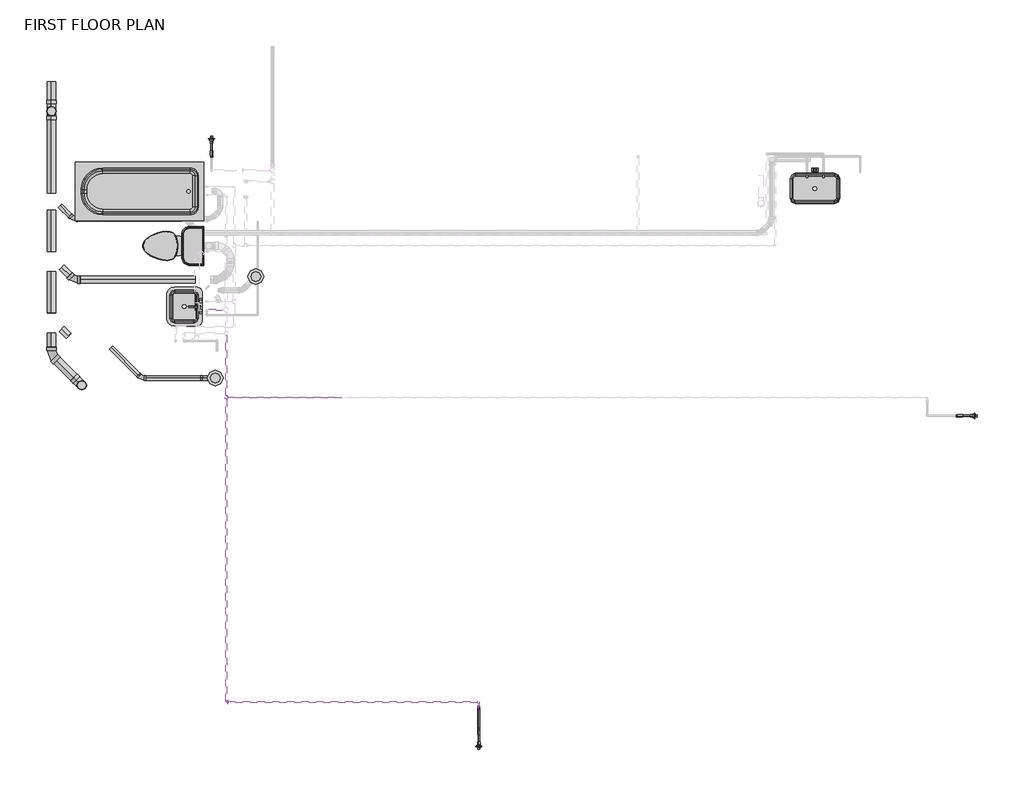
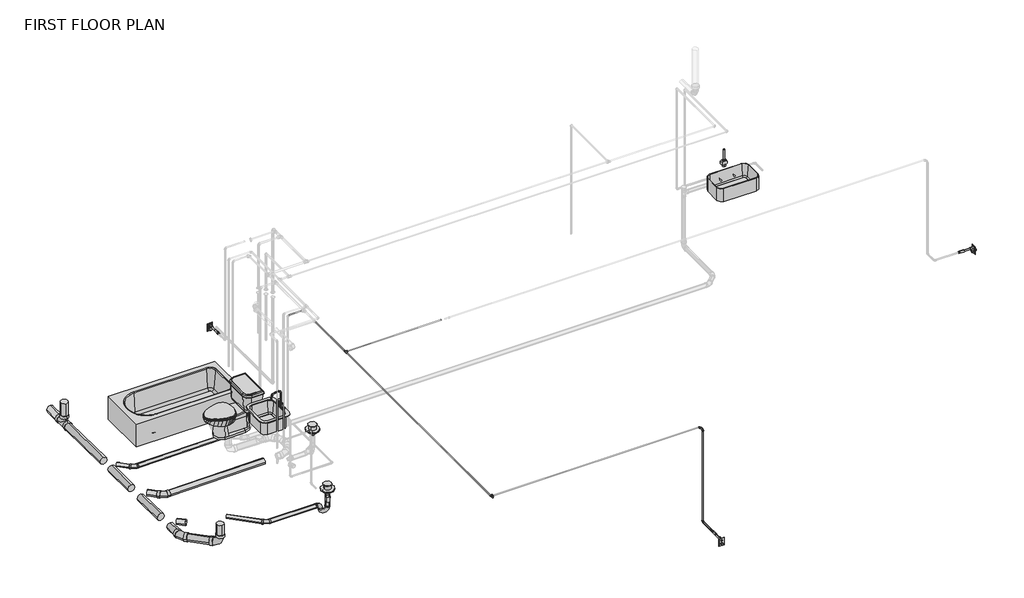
# One storey, part 1 of 5: 25 pipe segments, 15 pipe fittings, 9 flow terminals.
"""IFC4 building model written with IfcOpenShell, lengths in millimetres."""

from ifc_helpers import new_model, si_unit, point, frame, frame_2d, origin, place, context, project, spatial, circle_curve, trimmed, segment, composite_curve, outline, extrude, transform, mapped, element, save
from ifc_brep_helpers import plane_surface, cylinder_surface, advanced_brep
from components import flow_terminal_accce45a, flow_terminal_99821c54, lsy_sink_1a_065a4558, flow_terminal_62a433f7, toilet_domestic_3d_toilet_domestic_3d_a08e12bc, toilet_domestic_3d_toilet_domestic_3d_5530cc89, tub_rectangular_3d_tub_rectangular_3d_d1c8eb0f, bend_pvc_sch_40_dwv_standard_9bd3ec68, bend_pvc_sch_40_dwv_standard_021da87b, bend_pvc_sch_40_dwv_standard_1fbead0f, bend_pvc_sch_40_dwv_standard_1e75cfd5, bend_pvc_sch_40_dwv_standard_614e1da6, pipe_elbow_copper_k_aad62f2d, pipe_tee_copper_k_1a6ca384, pipe_tee_copper_k_6c1f9b63, pipe_transition_copper_k_859ff352, pipe_transition_copper_k_a6841901, standard_73d07651, tee_sanitary_pvc_sch_40_dwv_standard_2f6296fd

model = new_model("IFC4")

# Units and contexts
model_context = context("Model", 3, world=origin())
ifc_project = project(units=[si_unit("LENGTHUNIT", "METRE", prefix="MILLI")], contexts=[model_context])

# Site, building, storey
site = spatial("IfcSite", under=ifc_project)
building = spatial("IfcBuilding", under=site)
storey = spatial("IfcBuildingStorey", under=building, Name="FIRST FLOOR PLAN", Elevation=0.0)

# Flow terminals
placement = place(None, origin())
flow_terminal_shape = flow_terminal_accce45a(model_context)
element("IfcFlowTerminal", 1, ObjectType="Floor Drain - Round : 5\" Strainer - 2\" Drain", at=placement, inside=storey, context=model_context, shape_type="MappedRepresentation", body=[
    mapped(flow_terminal_shape, transform((-6605.1514604, 4019.3670747, 0.0), x_axis=(0.70711416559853, 0.7070993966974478, 0.0), y_axis=(-0.7070993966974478, 0.70711416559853, 0.0), z_axis=(0.0, 0.0, 1.0))),
])
element("IfcFlowTerminal", 2, ObjectType="Floor Drain - Round : 5\" Strainer - 2\" Drain", at=placement, inside=storey, context=model_context, shape_type="MappedRepresentation", body=[
    mapped(flow_terminal_shape, transform((-7133.1507302, 2694.921428, 0.0), x_axis=(1.0, -1.4058557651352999e-08, 0.0), y_axis=(1.4058557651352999e-08, 1.0, 0.0), z_axis=(0.0, 0.0, 1.0))),
])
flow_terminal_2_shape = flow_terminal_99821c54(model_context)
element("IfcFlowTerminal", 3, ObjectType="GES WALL HYDRANT : 6\" Wall Thickness", at=placement, inside=storey, context=model_context, shape_type="MappedRepresentation", body=[
    mapped(flow_terminal_2_shape, transform((-3698.9238767, -2108.9823595, 736.6), x_axis=(1.0, 0.0, 0.0), y_axis=(0.0, 0.0, 1.0), z_axis=(0.0, -1.0, 0.0))),
])
element("IfcFlowTerminal", 4, ObjectType="GES WALL HYDRANT : 6\" Wall Thickness", at=placement, inside=storey, context=model_context, shape_type="MappedRepresentation", body=[
    mapped(flow_terminal_2_shape, transform((2763.7886233, 2202.6342063, 736.6), x_axis=(0.0, 1.0, 0.0), y_axis=(0.0, 0.0, 1.0), z_axis=(1.0, 0.0, 0.0))),
])
element("IfcFlowTerminal", 5, ObjectType="GES WALL HYDRANT : 6\" Wall Thickness", at=placement, inside=storey, context=model_context, shape_type="MappedRepresentation", body=[
    mapped(flow_terminal_2_shape, transform((-7183.0178129, 5815.8176405, 736.6), x_axis=(-1.0, 0.0, 0.0), y_axis=(0.0, 0.0, 1.0), z_axis=(0.0, 1.0, 0.0))),
])
lsy_sink_1a_shape = lsy_sink_1a_065a4558(model_context)
element("IfcFlowTerminal", 6, ObjectType="LSY_Sink_1A : 25\"W x 15\"D", at=placement, inside=storey, context=model_context, shape_type="MappedRepresentation", body=[
    mapped(lsy_sink_1a_shape, transform((665.0993832, 5264.1972394, -25.4), x_axis=(1.0, 0.0, 0.0), y_axis=(0.0, 1.0, 0.0), z_axis=(0.0, 0.0, 1.0))),
])
flow_terminal_3_shape = flow_terminal_62a433f7(model_context)
element("IfcFlowTerminal", 7, ObjectType="Sink Vanity-Square : 20\" x 18\"", at=placement, inside=storey, context=model_context, shape_type="MappedRepresentation", body=[
    mapped(flow_terminal_3_shape, transform((-7486.988214, 3642.7068811, 0.0), x_axis=(0.0, -1.0, 0.0), y_axis=(1.0, 0.0, 0.0), z_axis=(0.0, 0.0, 1.0))),
])
toilet_domestic_3d_toilet_domestic_3d_shape = toilet_domestic_3d_toilet_domestic_3d_a08e12bc(model_context)
toilet_domestic_3d_toilet_domestic_3d_2_shape = toilet_domestic_3d_toilet_domestic_3d_5530cc89(model_context)
element("IfcFlowTerminal", 8, ObjectType="Toilet-Domestic-3D : Toilet-Domestic-3D", at=placement, inside=storey, context=model_context, shape_type="MappedRepresentation", body=[
    mapped(toilet_domestic_3d_toilet_domestic_3d_shape, transform((-7776.1388402, 4418.8176405, 0.0), x_axis=(0.0, 1.0, 0.0), y_axis=(-1.0, 0.0, 0.0), z_axis=(0.0, 0.0, 1.0))),
    mapped(toilet_domestic_3d_toilet_domestic_3d_2_shape, transform((-7776.1388402, 4418.8176405, 0.0), x_axis=(0.0, 1.0, 0.0), y_axis=(-1.0, 0.0, 0.0), z_axis=(0.0, 0.0, 1.0))),
])
tub_rectangular_3d_tub_rectangular_3d_shape = tub_rectangular_3d_tub_rectangular_3d_d1c8eb0f(model_context)
element("IfcFlowTerminal", 9, ObjectType="Tub-Rectangular-3D : Tub-Rectangular-3D", at=placement, inside=storey, context=model_context, shape_type="MappedRepresentation", body=[
    mapped(tub_rectangular_3d_tub_rectangular_3d_shape, transform((-8544.4457816, 5511.0176405, 0.0), x_axis=(-1.0, 0.0, 0.0), y_axis=(0.0, -1.0, 0.0), z_axis=(0.0, 0.0, 1.0))),
])

# Pipe fittings
bend_pvc_sch_40_dwv_standard_shape = bend_pvc_sch_40_dwv_standard_9bd3ec68(model_context)
element("IfcPipeFitting", 10, ObjectType="Bend - PVC - Sch 40 - DWV : Standard", at=placement, inside=storey, context=model_context, shape_type="MappedRepresentation", body=[
    mapped(bend_pvc_sch_40_dwv_standard_shape, transform((-8984.7024744, 4769.5060626, -334.2628729), x_axis=(0.707087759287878, -0.7070875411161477, 0.007355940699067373), y_axis=(0.7070490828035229, 0.7071260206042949, 0.007374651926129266), z_axis=(-0.010416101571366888, -1.3514981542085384e-05, 0.9999457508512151))),
])
bend_pvc_sch_40_dwv_standard_2_shape = bend_pvc_sch_40_dwv_standard_021da87b(model_context)
element("IfcPipeFitting", 11, ObjectType="Bend - PVC - Sch 40 - DWV : Standard", at=placement, inside=storey, context=model_context, shape_type="MappedRepresentation", body=[
    mapped(bend_pvc_sch_40_dwv_standard_2_shape, transform((-8974.0929724, 3977.8910872, -325.9743028), x_axis=(0.7070887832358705, -0.7070865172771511, 0.007355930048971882), y_axis=(0.7070479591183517, 0.7071270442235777, 0.007384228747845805), z_axis=(-0.01042286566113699, -2.0309991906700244e-05, 0.9999456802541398))),
])
bend_pvc_sch_40_dwv_standard_3_shape = bend_pvc_sch_40_dwv_standard_1fbead0f(model_context)
element("IfcPipeFitting", 12, ObjectType="Bend - PVC - Sch 40 - DWV : Standard", at=placement, inside=storey, context=model_context, shape_type="MappedRepresentation", body=[
    mapped(bend_pvc_sch_40_dwv_standard_3_shape, transform((-9269.9108991, 2996.8400755, -315.9940029), x_axis=(0.0, -0.9999458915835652, 0.010402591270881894), y_axis=(0.9999908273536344, 4.455565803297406e-05, 0.004282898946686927), z_axis=(-0.004283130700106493, 0.010402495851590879, 0.9999367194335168))),
])
bend_pvc_sch_40_dwv_standard_4_shape = bend_pvc_sch_40_dwv_standard_1e75cfd5(model_context)
element("IfcPipeFitting", 13, ObjectType="Bend - PVC - Sch 40 - DWV : Standard", at=placement, inside=storey, context=model_context, shape_type="MappedRepresentation", body=[
    mapped(bend_pvc_sch_40_dwv_standard_4_shape, transform((-8874.7796298, 2601.7088062, -310.1908854), x_axis=(0.7070686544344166, -0.7070686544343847, 0.010384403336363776), y_axis=(-0.0073428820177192, 0.007342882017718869, 0.9999460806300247), z_axis=(-0.7071067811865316, -0.7071067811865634, 0.0))),
])
bend_pvc_sch_40_dwv_standard_5_shape = bend_pvc_sch_40_dwv_standard_614e1da6(model_context)
element("IfcPipeFitting", 14, ObjectType="Bend - PVC - Sch 40 - DWV : Standard", at=placement, inside=storey, context=model_context, shape_type="MappedRepresentation", body=[
    mapped(bend_pvc_sch_40_dwv_standard_5_shape, transform((-8096.4060209, 2694.9552371, -309.827854), x_axis=(0.7071057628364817, -0.7070864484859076, 0.005494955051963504), y_axis=(0.7071077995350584, 0.7070844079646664, -0.005495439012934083), z_axis=(3.5341481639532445e-07, 0.007771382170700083, 0.9999698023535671))),
])
pipe_elbow_copper_k_shape = pipe_elbow_copper_k_aad62f2d(model_context)
element("IfcPipeFitting", 15, ObjectType="Pipe Elbow : Copper- K", at=placement, inside=storey, context=model_context, shape_type="MappedRepresentation", body=[
    mapped(pipe_elbow_copper_k_shape, transform((-3698.9238767, -1598.3633412, 765.96875), x_axis=(0.0, 1.0, 0.0), y_axis=(0.0, 0.0, 1.0), z_axis=(1.0, 0.0, 0.0))),
])
element("IfcPipeFitting", 16, ObjectType="Pipe Elbow : Copper- K", at=placement, inside=storey, context=model_context, shape_type="MappedRepresentation", body=[
    mapped(pipe_elbow_copper_k_shape, transform((-3698.9238767, -1598.3633412, 2298.2390728), x_axis=(0.0, 0.0, 1.0), y_axis=(0.0, 1.0, 0.0), z_axis=(-1.0, 0.0, 0.0))),
])
element("IfcPipeFitting", 17, ObjectType="Pipe Elbow : Copper- K", at=placement, inside=storey, context=model_context, shape_type="MappedRepresentation", body=[
    mapped(pipe_elbow_copper_k_shape, transform((-3698.9238767, -1531.2560431, 2298.2390728), x_axis=(0.0, 1.0, 0.0), y_axis=(-1.0, 0.0, 0.0), z_axis=(0.0, 0.0, 1.0))),
])
element("IfcPipeFitting", 18, ObjectType="Pipe Elbow : Copper- K", at=placement, inside=storey, context=model_context, shape_type="MappedRepresentation", body=[
    mapped(pipe_elbow_copper_k_shape, transform((-6991.3887487, -1531.2560431, 2298.2390728), x_axis=(0.0, -1.0, 0.0), y_axis=(1.0, 0.0, 0.0), z_axis=(0.0, 0.0, 1.0))),
])
pipe_tee_copper_k_shape = pipe_tee_copper_k_1a6ca384(model_context)
element("IfcPipeFitting", 19, ObjectType="Pipe Tee : Copper- K", at=placement, inside=storey, context=model_context, shape_type="MappedRepresentation", body=[
    mapped(pipe_tee_copper_k_shape, transform((-6991.3887487, 2442.6144205, 2298.2390728), x_axis=(0.0, 1.0, 0.0), y_axis=(-1.0, 0.0, 0.0), z_axis=(0.0, 0.0, 1.0))),
])
pipe_tee_copper_k_2_shape = pipe_tee_copper_k_6c1f9b63(model_context)
element("IfcPipeFitting", 20, ObjectType="Pipe Tee : Copper- K", at=placement, inside=storey, context=model_context, shape_type="MappedRepresentation", body=[
    mapped(pipe_tee_copper_k_2_shape, transform((-7133.1525364, 2694.921428, -254.0009027), x_axis=(1.3874723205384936e-05, -7.937864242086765e-11, 0.9999999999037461), y_axis=(-0.7071067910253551, -0.707106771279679, 9.810854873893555e-06), z_axis=(0.7071067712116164, -0.7071067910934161, -9.810966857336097e-06))),
])
pipe_transition_copper_k_shape = pipe_transition_copper_k_859ff352(model_context)
element("IfcPipeFitting", 21, ObjectType="Pipe Transition : Copper- K", at=placement, inside=storey, context=model_context, shape_type="MappedRepresentation", body=[
    mapped(pipe_transition_copper_k_shape, transform((-3698.9238767, -1621.3820912, 765.96875), x_axis=(0.0, 1.0, 0.0), y_axis=(-1.0, 0.0, 0.0), z_axis=(0.0, 0.0, 1.0))),
])
pipe_transition_copper_k_2_shape = pipe_transition_copper_k_a6841901(model_context)
element("IfcPipeFitting", 22, ObjectType="Pipe Transition : Copper- K", at=placement, inside=storey, context=model_context, shape_type="MappedRepresentation", body=[
    mapped(pipe_transition_copper_k_2_shape, transform((-6967.1793737, -1531.2560431, 2298.2390728), x_axis=(-1.0, 0.0, 0.0), y_axis=(0.0, -1.0, 0.0), z_axis=(0.0, 0.0, 1.0))),
])
standard_shape = standard_73d07651(model_context)
element("IfcPipeFitting", 23, ObjectType="GES P TRAP PVC Sch 40 - DWV : Standard", at=placement, inside=storey, context=model_context, shape_type="MappedRepresentation", body=[
    mapped(standard_shape, transform((-7133.152779, 2694.9202352, -309.8279224), x_axis=(-7.102474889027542e-08, 7.05815354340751e-08, -0.999999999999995), y_axis=(-0.9999999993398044, 3.633712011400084e-05, 7.102731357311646e-08), z_axis=(3.633712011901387e-05, 0.9999999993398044, 7.057895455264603e-08))),
])
tee_sanitary_pvc_sch_40_dwv_standard_shape = tee_sanitary_pvc_sch_40_dwv_standard_2f6296fd(model_context)
element("IfcPipeFitting", 24, ObjectType="Tee Sanitary - PVC - Sch 40 - DWV : Standard", at=placement, inside=storey, context=model_context, shape_type="MappedRepresentation", body=[
    mapped(tee_sanitary_pvc_sch_40_dwv_standard_shape, transform((-9269.9108991, 6176.3055928, -349.0704729), x_axis=(0.0, -0.9999458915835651, 0.01040259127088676), y_axis=(0.0, -0.01040259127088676, -0.9999458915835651), z_axis=(1.0, 0.0, 0.0))),
])

# Pipe segments
element("IfcPipeSegment", 25, ObjectType="Copper", at=placement, inside=storey, context=model_context, shape_type="SweptSolid", body=[
    extrude(outline(composite_curve([segment(trimmed(circle_curve(frame_2d((3583.7331459, 2298.2390728)), 7.9375), [point((3575.7956459, 2298.2390728))], [point((3583.7331459, 2306.1765728))], False, "CARTESIAN"), True, "CONTINUOUS"), segment(trimmed(circle_curve(frame_2d((3583.7331459, 2298.2390728)), 7.9375), [point((3583.7331459, 2306.1765728))], [point((3591.6706459, 2298.2390728))], False, "CARTESIAN"), True, "CONTINUOUS"), segment(trimmed(circle_curve(frame_2d((3583.7331459, 2298.2390728)), 7.9375), [point((3591.6706459, 2298.2390728))], [point((3583.7331459, 2290.3015728))], False, "CARTESIAN"), True, "CONTINUOUS"), segment(trimmed(circle_curve(frame_2d((3583.7331459, 2298.2390728)), 7.9375), [point((3583.7331459, 2290.3015728))], [point((3575.7956459, 2298.2390728))], False, "CARTESIAN"), True, "CONTINUOUS")], self_intersect=False)), frame((-7227.9262487, 0.0, 0.0), z_axis=(1.0, 0.0, 0.0), x_axis=(0.0, 1.0, 0.0)), (0.0, 0.0, 1.0), 199.23125),
])
element("IfcPipeSegment", 26, ObjectType="Copper", at=placement, inside=storey, context=model_context, shape_type="SweptSolid", body=[
    extrude(outline(composite_curve([segment(trimmed(circle_curve(frame_2d((2298.2390728, -3698.9238767)), 7.9375), [point((2298.2390728, -3690.9863767))], [point((2306.1765728, -3698.9238767))], False, "CARTESIAN"), True, "CONTINUOUS"), segment(trimmed(circle_curve(frame_2d((2298.2390728, -3698.9238767)), 7.9375), [point((2306.1765728, -3698.9238767))], [point((2298.2390728, -3706.8613767))], False, "CARTESIAN"), True, "CONTINUOUS"), segment(trimmed(circle_curve(frame_2d((2298.2390728, -3698.9238767)), 7.9375), [point((2298.2390728, -3706.8613767))], [point((2290.3015728, -3698.9238767))], False, "CARTESIAN"), True, "CONTINUOUS"), segment(trimmed(circle_curve(frame_2d((2298.2390728, -3698.9238767)), 7.9375), [point((2290.3015728, -3698.9238767))], [point((2298.2390728, -3690.9863767))], False, "CARTESIAN"), True, "CONTINUOUS")], self_intersect=False)), frame((0.0, -1580.9008412, 0.0), z_axis=(0.0, 1.0, 0.0), x_axis=(0.0, 0.0, 1.0)), (0.0, 0.0, 1.0), 32.1822981),
])
element("IfcPipeSegment", 27, ObjectType="Copper", at=placement, inside=storey, context=model_context, shape_type="SweptSolid", body=[
    extrude(outline(composite_curve([segment(trimmed(circle_curve(frame_2d((765.96875, -3698.9238767)), 11.1125), [point((765.96875, -3687.8113767))], [point((777.08125, -3698.9238767))], False, "CARTESIAN"), True, "CONTINUOUS"), segment(trimmed(circle_curve(frame_2d((765.96875, -3698.9238767)), 11.1125), [point((777.08125, -3698.9238767))], [point((765.96875, -3710.0363767))], False, "CARTESIAN"), True, "CONTINUOUS"), segment(trimmed(circle_curve(frame_2d((765.96875, -3698.9238767)), 11.1125), [point((765.96875, -3710.0363767))], [point((754.85625, -3698.9238767))], False, "CARTESIAN"), True, "CONTINUOUS"), segment(trimmed(circle_curve(frame_2d((765.96875, -3698.9238767)), 11.1125), [point((754.85625, -3698.9238767))], [point((765.96875, -3687.8113767))], False, "CARTESIAN"), True, "CONTINUOUS")], self_intersect=False)), frame((0.0, -1870.8573595, 0.0), z_axis=(0.0, 1.0, 0.0), x_axis=(0.0, 0.0, 1.0)), (0.0, 0.0, 1.0), 249.4752683),
])
element("IfcPipeSegment", 28, ObjectType="Copper", at=placement, inside=storey, context=model_context, shape_type="SweptSolid", body=[
    extrude(outline(composite_curve([segment(trimmed(circle_curve(frame_2d((-3698.9238767, -1598.3633412)), 7.9375), [point((-3706.8613767, -1598.3633412))], [point((-3698.9238767, -1590.4258412))], False, "CARTESIAN"), True, "CONTINUOUS"), segment(trimmed(circle_curve(frame_2d((-3698.9238767, -1598.3633412)), 7.9375), [point((-3698.9238767, -1590.4258412))], [point((-3690.9863767, -1598.3633412))], False, "CARTESIAN"), True, "CONTINUOUS"), segment(trimmed(circle_curve(frame_2d((-3698.9238767, -1598.3633412)), 7.9375), [point((-3690.9863767, -1598.3633412))], [point((-3698.9238767, -1606.3008412))], False, "CARTESIAN"), True, "CONTINUOUS"), segment(trimmed(circle_curve(frame_2d((-3698.9238767, -1598.3633412)), 7.9375), [point((-3698.9238767, -1606.3008412))], [point((-3706.8613767, -1598.3633412))], False, "CARTESIAN"), True, "CONTINUOUS")], self_intersect=False)), frame((0.0, 0.0, 783.43125), z_axis=(0.0, 0.0, 1.0), x_axis=(1.0, 0.0, 0.0)), (0.0, 0.0, 1.0), 1497.3453228),
])
element("IfcPipeSegment", 29, ObjectType="Copper", at=placement, inside=storey, context=model_context, shape_type="SweptSolid", body=[
    extrude(outline(composite_curve([segment(trimmed(circle_curve(frame_2d((-1531.2560431, 2298.2390728)), 7.9375), [point((-1539.1935431, 2298.2390728))], [point((-1531.2560431, 2306.1765728))], False, "CARTESIAN"), True, "CONTINUOUS"), segment(trimmed(circle_curve(frame_2d((-1531.2560431, 2298.2390728)), 7.9375), [point((-1531.2560431, 2306.1765728))], [point((-1523.3185431, 2298.2390728))], False, "CARTESIAN"), True, "CONTINUOUS"), segment(trimmed(circle_curve(frame_2d((-1531.2560431, 2298.2390728)), 7.9375), [point((-1523.3185431, 2298.2390728))], [point((-1531.2560431, 2290.3015728))], False, "CARTESIAN"), True, "CONTINUOUS"), segment(trimmed(circle_curve(frame_2d((-1531.2560431, 2298.2390728)), 7.9375), [point((-1531.2560431, 2290.3015728))], [point((-1539.1935431, 2298.2390728))], False, "CARTESIAN"), True, "CONTINUOUS")], self_intersect=False)), frame((-6967.1793737, 0.0, 0.0), z_axis=(1.0, 0.0, 0.0), x_axis=(0.0, 1.0, 0.0)), (0.0, 0.0, 1.0), 3250.792997),
])
element("IfcPipeSegment", 30, ObjectType="Copper", at=placement, inside=storey, context=model_context, shape_type="SweptSolid", body=[
    extrude(outline(composite_curve([segment(trimmed(circle_curve(frame_2d((2442.6144205, 2298.2390728)), 7.9375), [point((2434.6769205, 2298.2390728))], [point((2442.6144205, 2306.1765728))], False, "CARTESIAN"), True, "CONTINUOUS"), segment(trimmed(circle_curve(frame_2d((2442.6144205, 2298.2390728)), 7.9375), [point((2442.6144205, 2306.1765728))], [point((2450.5519205, 2298.2390728))], False, "CARTESIAN"), True, "CONTINUOUS"), segment(trimmed(circle_curve(frame_2d((2442.6144205, 2298.2390728)), 7.9375), [point((2450.5519205, 2298.2390728))], [point((2442.6144205, 2290.3015728))], False, "CARTESIAN"), True, "CONTINUOUS"), segment(trimmed(circle_curve(frame_2d((2442.6144205, 2298.2390728)), 7.9375), [point((2442.6144205, 2290.3015728))], [point((2434.6769205, 2298.2390728))], False, "CARTESIAN"), True, "CONTINUOUS")], self_intersect=False)), frame((-6967.5762487, 0.0, 0.0), z_axis=(1.0, 0.0, 0.0), x_axis=(0.0, 1.0, 0.0)), (0.0, 0.0, 1.0), 1483.7283),
])
element("IfcPipeSegment", 31, ObjectType="Copper", at=placement, inside=storey, context=model_context, shape_type="SweptSolid", body=[
    extrude(outline(composite_curve([segment(trimmed(circle_curve(frame_2d((2298.2390728, -6991.3887487)), 7.9375), [point((2298.2390728, -6999.3262487))], [point((2290.3015728, -6991.3887487))], False, "CARTESIAN"), True, "CONTINUOUS"), segment(trimmed(circle_curve(frame_2d((2298.2390728, -6991.3887487)), 7.9375), [point((2290.3015728, -6991.3887487))], [point((2298.2390728, -6983.4512487))], False, "CARTESIAN"), True, "CONTINUOUS"), segment(trimmed(circle_curve(frame_2d((2298.2390728, -6991.3887487)), 7.9375), [point((2298.2390728, -6983.4512487))], [point((2306.1765728, -6991.3887487))], False, "CARTESIAN"), True, "CONTINUOUS"), segment(trimmed(circle_curve(frame_2d((2298.2390728, -6991.3887487)), 7.9375), [point((2306.1765728, -6991.3887487))], [point((2298.2390728, -6999.3262487))], False, "CARTESIAN"), True, "CONTINUOUS")], self_intersect=False)), frame((0.0, -1513.7935431, 0.0), z_axis=(0.0, 1.0, 0.0), x_axis=(0.0, 0.0, 1.0)), (0.0, 0.0, 1.0), 3932.5954635),
])
element("IfcPipeSegment", 32, ObjectType="Copper", at=placement, inside=storey, context=model_context, shape_type="SweptSolid", body=[
    extrude(outline(composite_curve([segment(trimmed(circle_curve(frame_2d((2298.2390728, -6991.3887487)), 7.9375), [point((2298.2390728, -6999.3262487))], [point((2290.3015728, -6991.3887487))], False, "CARTESIAN"), True, "CONTINUOUS"), segment(trimmed(circle_curve(frame_2d((2298.2390728, -6991.3887487)), 7.9375), [point((2290.3015728, -6991.3887487))], [point((2298.2390728, -6983.4512487))], False, "CARTESIAN"), True, "CONTINUOUS"), segment(trimmed(circle_curve(frame_2d((2298.2390728, -6991.3887487)), 7.9375), [point((2298.2390728, -6983.4512487))], [point((2306.1765728, -6991.3887487))], False, "CARTESIAN"), True, "CONTINUOUS"), segment(trimmed(circle_curve(frame_2d((2298.2390728, -6991.3887487)), 7.9375), [point((2306.1765728, -6991.3887487))], [point((2298.2390728, -6999.3262487))], False, "CARTESIAN"), True, "CONTINUOUS")], self_intersect=False)), frame((0.0, 2466.4269205, 0.0), z_axis=(0.0, 1.0, 0.0), x_axis=(0.0, 0.0, 1.0)), (0.0, 0.0, 1.0), 788.37822),
])
element("IfcPipeSegment", 33, ObjectType="PVC - SAN/STORM", at=placement, inside=storey, context=model_context, shape_type="SweptSolid", body=[
    extrude(outline(composite_curve([segment(trimmed(circle_curve(frame_2d((0.0, 30.1625)), 30.1625), [point((-30.1624999, 30.1625))], [point((0.0, 60.325))], False, "CARTESIAN"), True, "CONTINUOUS"), segment(trimmed(circle_curve(frame_2d((0.0, 30.1625)), 30.1625), [point((0.0, 60.325))], [point((30.1625, 30.1625))], False, "CARTESIAN"), True, "CONTINUOUS"), segment(trimmed(circle_curve(frame_2d((0.0, 30.1625)), 30.1625), [point((30.1625, 30.1625))], [point((0.0, 0.0))], False, "CARTESIAN"), True, "CONTINUOUS"), segment(trimmed(circle_curve(frame_2d((0.0, 30.1625)), 30.1625), [point((0.0, 0.0))], [point((-30.1624999, 30.1625))], False, "CARTESIAN"), True, "CONTINUOUS")], self_intersect=False)), frame((-7133.1519417, 2664.758928, -211.1384027), z_axis=(3.3178685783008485e-05, 0.0, 0.9999999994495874), x_axis=(0.9999999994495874, 0.0, -3.3178685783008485e-05)), (0.0, 0.0, 1.0), 36.5125),
])
element("IfcPipeSegment", 34, ObjectType="PVC - SAN/STORM", at=placement, inside=storey, context=model_context, shape_type="SweptSolid", body=[
    extrude(outline(composite_curve([segment(trimmed(circle_curve(frame_2d((0.0, 30.1625)), 30.1625), [point((-30.1625, 30.1625))], [point((0.0, 60.325))], False, "CARTESIAN"), True, "CONTINUOUS"), segment(trimmed(circle_curve(frame_2d((0.0, 30.1625)), 30.1625), [point((0.0, 60.325))], [point((30.1625, 30.1625))], False, "CARTESIAN"), True, "CONTINUOUS"), segment(trimmed(circle_curve(frame_2d((0.0, 30.1625)), 30.1625), [point((30.1625, 30.1625))], [point((0.0, 0.0))], False, "CARTESIAN"), True, "CONTINUOUS"), segment(trimmed(circle_curve(frame_2d((0.0, 30.1625)), 30.1625), [point((0.0, 0.0))], [point((-30.1625, 30.1625))], False, "CARTESIAN"), True, "CONTINUOUS")], self_intersect=False)), frame((-7133.1527824, 2664.7577386, -357.4529224), z_axis=(1.3874723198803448e-05, 0.0, 0.9999999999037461), x_axis=(0.9999999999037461, 0.0, -1.3874723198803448e-05)), (0.0, 0.0, 1.0), 60.5895198),
])
element("IfcPipeSegment", 35, ObjectType="PVC - SAN/STORM", at=placement, inside=storey, context=model_context, shape_type="SweptSolid", body=[
    extrude(outline(composite_curve([segment(trimmed(circle_curve(frame_2d((0.0, 57.1500001)), 57.15), [point((-57.15, 57.1499999))], [point((-2e-07, 114.3000001))], False, "CARTESIAN"), True, "CONTINUOUS"), segment(trimmed(circle_curve(frame_2d((0.0, 57.1500001)), 57.15), [point((-2e-07, 114.3000001))], [point((57.1499999, 57.1500002))], False, "CARTESIAN"), True, "CONTINUOUS"), segment(trimmed(circle_curve(frame_2d((0.0, 57.1500001)), 57.15), [point((57.1499999, 57.1500002))], [point((1e-07, 0.0))], False, "CARTESIAN"), True, "CONTINUOUS"), segment(trimmed(circle_curve(frame_2d((0.0, 57.1500001)), 57.15), [point((1e-07, 0.0))], [point((-57.15, 57.1499999))], False, "CARTESIAN"), True, "CONTINUOUS")], self_intersect=False)), frame((-9269.9108991, 6119.1555929, -206.199965), z_axis=(-3.8335576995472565e-05, -7.860267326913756e-05, 0.9999999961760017), x_axis=(0.9999999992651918, -3.013280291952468e-09, 3.8335576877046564e-05)), (0.0, 0.0, 1.0), 206.1948523),
])
element("IfcPipeSegment", 36, ObjectType="PVC - SAN/STORM", at=placement, inside=storey, context=model_context, shape_type="SweptSolid", body=[
    extrude(outline(composite_curve([segment(trimmed(circle_curve(frame_2d((0.0, -57.15)), 57.15), [point((57.15, -57.15))], [point((0.0, -114.3))], False, "CARTESIAN"), True, "CONTINUOUS"), segment(trimmed(circle_curve(frame_2d((0.0, -57.15)), 57.15), [point((0.0, -114.3))], [point((-57.15, -57.15))], False, "CARTESIAN"), True, "CONTINUOUS"), segment(trimmed(circle_curve(frame_2d((0.0, -57.15)), 57.15), [point((-57.15, -57.15))], [point((0.0, 0.0))], False, "CARTESIAN"), True, "CONTINUOUS"), segment(trimmed(circle_curve(frame_2d((0.0, -57.15)), 57.15), [point((0.0, 0.0))], [point((57.15, -57.15))], False, "CARTESIAN"), True, "CONTINUOUS")], self_intersect=False)), frame((-9269.9108991, 6560.5051059, -295.9142672), z_axis=(0.0, -0.9999458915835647, 0.010402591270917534), x_axis=(1.0, 0.0, 0.0)), (0.0, 0.0, 1.0), 240.7507624),
])
element("IfcPipeSegment", 37, ObjectType="PVC - SAN/STORM", at=placement, inside=storey, context=model_context, shape_type="SweptSolid", body=[
    extrude(outline(composite_curve([segment(trimmed(circle_curve(frame_2d((0.0, 57.15)), 57.15), [point((-57.15, 57.15))], [point((0.0, 114.3))], False, "CARTESIAN"), True, "CONTINUOUS"), segment(trimmed(circle_curve(frame_2d((0.0, 57.15)), 57.15), [point((0.0, 114.3))], [point((57.15, 57.15))], False, "CARTESIAN"), True, "CONTINUOUS"), segment(trimmed(circle_curve(frame_2d((0.0, 57.15)), 57.15), [point((57.15, 57.15))], [point((0.0, 0.0))], False, "CARTESIAN"), True, "CONTINUOUS"), segment(trimmed(circle_curve(frame_2d((0.0, 57.15)), 57.15), [point((0.0, 0.0))], [point((-57.15, 57.15))], False, "CARTESIAN"), True, "CONTINUOUS")], self_intersect=False)), frame((-9269.9108991, 3281.9007791, -376.1126258), z_axis=(0.0, -0.9999458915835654, 0.010402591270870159), x_axis=(1.0, 0.0, 0.0)), (0.0, 0.0, 1.0), 185.6454689),
])
element("IfcPipeSegment", 38, ObjectType="PVC - SAN/STORM", at=placement, inside=storey, context=model_context, shape_type="SweptSolid", body=[
    extrude(outline(composite_curve([segment(trimmed(circle_curve(frame_2d((0.0, -30.1625)), 30.1625), [point((0.0, 0.0))], [point((30.1625, -30.1625))], False, "CARTESIAN"), True, "CONTINUOUS"), segment(trimmed(circle_curve(frame_2d((0.0, -30.1625)), 30.1625), [point((30.1625, -30.1625))], [point((0.0, -60.325))], False, "CARTESIAN"), True, "CONTINUOUS"), segment(trimmed(circle_curve(frame_2d((0.0, -30.1625)), 30.1625), [point((0.0, -60.325))], [point((-30.1625, -30.1625))], False, "CARTESIAN"), True, "CONTINUOUS"), segment(trimmed(circle_curve(frame_2d((0.0, -30.1625)), 30.1625), [point((-30.1625, -30.1625))], [point((0.0, 0.0))], False, "CARTESIAN"), True, "CONTINUOUS")], self_intersect=False)), frame((-8927.5555748, 4799.6685626, -333.6675927), z_axis=(0.9999457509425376, 0.0, 0.01041610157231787), x_axis=(0.01041610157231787, 0.0, -0.9999457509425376)), (0.0, 0.0, 1.0), 1358.3392102),
])
element("IfcPipeSegment", 39, ObjectType="PVC - SAN/STORM", at=placement, inside=storey, context=model_context, shape_type="SweptSolid", body=[
    extrude(outline(composite_curve([segment(trimmed(circle_curve(frame_2d((0.0, -30.1625)), 30.1625), [point((30.1616556, -29.9367927))], [point((0.2257074, -60.3241555))], False, "CARTESIAN"), True, "CONTINUOUS"), segment(trimmed(circle_curve(frame_2d((0.0, -30.1625)), 30.1625), [point((0.2257074, -60.3241555))], [point((-30.1616555, -30.3882074))], False, "CARTESIAN"), True, "CONTINUOUS"), segment(trimmed(circle_curve(frame_2d((0.0, -30.1625)), 30.1625), [point((-30.1616555, -30.3882074))], [point((-0.2257074, -0.0008445))], False, "CARTESIAN"), True, "CONTINUOUS"), segment(trimmed(circle_curve(frame_2d((0.0, -30.1625)), 30.1625), [point((-0.2257074, -0.0008445))], [point((30.1616556, -29.9367927))], False, "CARTESIAN"), True, "CONTINUOUS")], self_intersect=False)), frame((-9156.5303757, 4941.653846, -305.9132886), z_axis=(0.7070851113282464, -0.7070888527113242, 0.007483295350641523), x_axis=(0.7071284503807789, 0.7070455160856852, -0.007482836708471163)), (0.0, 0.0, 1.0), 185.8585815),
])
element("IfcPipeSegment", 40, ObjectType="PVC - SAN/STORM", at=placement, inside=storey, context=model_context, shape_type="SweptSolid", body=[
    extrude(outline(composite_curve([segment(trimmed(circle_curve(frame_2d((0.0, 57.15)), 57.15), [point((-57.15, 57.15))], [point((0.0, 114.3))], False, "CARTESIAN"), True, "CONTINUOUS"), segment(trimmed(circle_curve(frame_2d((0.0, 57.15)), 57.15), [point((0.0, 114.3))], [point((57.15, 57.15))], False, "CARTESIAN"), True, "CONTINUOUS"), segment(trimmed(circle_curve(frame_2d((0.0, 57.15)), 57.15), [point((57.15, 57.15))], [point((0.0, 0.0))], False, "CARTESIAN"), True, "CONTINUOUS"), segment(trimmed(circle_curve(frame_2d((0.0, 57.15)), 57.15), [point((0.0, 0.0))], [point((-57.15, 57.15))], False, "CARTESIAN"), True, "CONTINUOUS")], self_intersect=False)), frame((-9269.9108991, 6066.4925692, -405.0811635), z_axis=(0.0, -0.9999458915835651, 0.010402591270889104), x_axis=(1.0, 0.0, 0.0)), (0.0, 0.0, 1.0), 958.451088),
])
element("IfcPipeSegment", 41, ObjectType="PVC - SAN/STORM", at=placement, inside=storey, context=model_context, shape_type="AdvancedBrep", body=[
    advanced_brep(
    [(-7397.2787556, 4022.3410856, -309.5384872), (-7397.7420521, 3977.8910856, -265.0909017), (-7397.2787557, 3933.4410856, -309.5384872), (-7396.8154593, 3977.8910856, -353.9860727), (-8891.5474564, 4022.3410872, -325.1138952), (-8891.0841601, 3977.8910872, -369.5614807), (-8891.5474565, 3933.4410872, -325.1138952), (-8892.0107529, 3977.8910872, -280.6663097)],
    [
        (0, 1, circle_curve(frame((-7397.2787556, 3977.8910856, -309.5384872), z_axis=(0.9999456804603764, 0.0, 0.01042286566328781), x_axis=(0.0, 1.0, -1.1214382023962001e-11)), 44.45)),
        (1, 2, circle_curve(frame((-7397.2787557, 3977.8910856, -309.5384872), z_axis=(0.9999456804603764, 0.0, 0.01042286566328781), x_axis=(0.0, 1.0, -1.1214382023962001e-11)), 44.45)),
        (2, 3, circle_curve(frame((-7397.2787557, 3977.8910856, -309.5384872), z_axis=(0.9999456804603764, 0.0, 0.01042286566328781), x_axis=(0.0, 1.0, -1.1214382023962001e-11)), 44.45)),
        (3, 0, circle_curve(frame((-7397.2787557, 3977.8910856, -309.5384872), z_axis=(0.9999456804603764, 0.0, 0.01042286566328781), x_axis=(0.0, 1.0, -1.1214382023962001e-11)), 44.45)),
        (4, 5, circle_curve(frame((-8891.5474564, 3977.8910856, -325.1138952), z_axis=(-0.9999456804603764, 0.0, -0.01042286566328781), x_axis=(0.0, 1.0, -1.1214382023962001e-11)), 44.4500016)),
        (5, 6, circle_curve(frame((-8891.5474565, 3977.8910856, -325.1138952), z_axis=(-0.9999456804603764, 0.0, -0.01042286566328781), x_axis=(0.0, 1.0, -1.1214382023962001e-11)), 44.45)),
        (6, 7, circle_curve(frame((-8891.5474565, 3977.8910856, -325.1138952), z_axis=(-0.9999456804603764, 0.0, -0.01042286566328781), x_axis=(0.0, 1.0, -1.1214382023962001e-11)), 44.4499984)),
        (7, 4, circle_curve(frame((-8891.5474565, 3977.8910856, -325.1138952), z_axis=(-0.9999456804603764, 0.0, -0.01042286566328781), x_axis=(0.0, 1.0, -1.1214382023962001e-11)), 44.45)),
        (0, 4),
        (7, 1),
        (6, 2),
        (5, 3),
    ],
    [
        plane_surface(frame((-7397.2787557, 4022.3410856, -309.5384827), z_axis=(0.9999456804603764, -1.0759403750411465e-09, 0.010422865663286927), x_axis=(0.010422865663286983, 1.032232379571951e-07, -0.999945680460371))),
        plane_surface(frame((-8891.5474565, 4022.3410872, -325.1138906), z_axis=(-0.9999456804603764, 1.0759403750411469e-09, -0.010422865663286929), x_axis=(0.010422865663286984, 1.0322323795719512e-07, -0.999945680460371))),
        cylinder_surface(frame((-7397.2787557, 3977.8910856, -309.5384872), z_axis=(0.9999456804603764, 0.0, 0.01042286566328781), x_axis=(0.0, 1.0, -1.1214382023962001e-11)), 44.45),
    ],
    [
        (0, [[1, 2, 3, 4]]),
        (1, [[5, 6, 7, 8]]),
        (2, [[-1, 9, -8, 10]]),
        (2, [[-2, -10, -7, 11]]),
        (2, [[-3, -11, -6, 12]]),
        (2, [[-4, -12, -5, -9]]),
    ],
),
])
element("IfcPipeSegment", 42, ObjectType="PVC - SAN/STORM", at=placement, inside=storey, context=model_context, shape_type="SweptSolid", body=[
    extrude(outline(composite_curve([segment(trimmed(circle_curve(frame_2d((0.0, -30.1625)), 30.1625), [point((30.1620546, -29.9985699))], [point((0.1639301, -60.3245545))], False, "CARTESIAN"), True, "CONTINUOUS"), segment(trimmed(circle_curve(frame_2d((0.0, -30.1625)), 30.1625), [point((0.1639301, -60.3245545))], [point((-30.1620545, -30.3264301))], False, "CARTESIAN"), True, "CONTINUOUS"), segment(trimmed(circle_curve(frame_2d((0.0, -30.1625)), 30.1625), [point((-30.1620545, -30.3264301))], [point((-0.1639301, -0.0004454))], False, "CARTESIAN"), True, "CONTINUOUS"), segment(trimmed(circle_curve(frame_2d((0.0, -30.1625)), 30.1625), [point((-0.1639301, -0.0004454))], [point((30.1620546, -29.9985699))], False, "CARTESIAN"), True, "CONTINUOUS")], self_intersect=False)), frame((-8491.6922129, 3092.5861633, -282.7324019), z_axis=(0.7049939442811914, -0.709192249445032, 0.005467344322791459), x_axis=(0.7092133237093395, 0.7049729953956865, -0.005434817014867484)), (0.0, 0.0, 1.0), 503.3732567),
])
element("IfcPipeSegment", 43, ObjectType="PVC - SAN/STORM", at=placement, inside=storey, context=model_context, shape_type="SweptSolid", body=[
    extrude(outline(composite_curve([segment(trimmed(circle_curve(frame_2d((0.0, -44.4499999)), 44.45), [point((44.4489502, -44.1445064))], [point((0.3054935, -88.8989502))], False, "CARTESIAN"), True, "CONTINUOUS"), segment(trimmed(circle_curve(frame_2d((0.0, -44.4499999)), 44.45), [point((0.3054935, -88.8989502))], [point((-44.4489502, -44.7554935))], False, "CARTESIAN"), True, "CONTINUOUS"), segment(trimmed(circle_curve(frame_2d((0.0, -44.4499999)), 44.45), [point((-44.4489502, -44.7554935))], [point((-0.3054936, -0.0010498))], False, "CARTESIAN"), True, "CONTINUOUS"), segment(trimmed(circle_curve(frame_2d((0.0, -44.4499999)), 44.45), [point((-0.3054936, -0.0010498))], [point((44.4489502, -44.1445064))], False, "CARTESIAN"), True, "CONTINUOUS")], self_intersect=False)), frame((-9135.2127598, 4139.4432655, -283.1323676), z_axis=(0.7070882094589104, -0.7070919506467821, 0.0068729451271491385), x_axis=(0.7071253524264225, 0.7070548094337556, -0.006872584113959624)), (0.0, 0.0, 1.0), 145.3137062),
])
element("IfcPipeSegment", 44, ObjectType="PVC - SAN/STORM", at=placement, inside=storey, context=model_context, shape_type="SweptSolid", body=[
    extrude(outline(composite_curve([segment(trimmed(circle_curve(frame_2d((0.0, 57.15)), 57.15), [point((-57.15, 57.15))], [point((0.0, 114.3))], False, "CARTESIAN"), True, "CONTINUOUS"), segment(trimmed(circle_curve(frame_2d((0.0, 57.15)), 57.15), [point((0.0, 114.3))], [point((57.15, 57.15))], False, "CARTESIAN"), True, "CONTINUOUS"), segment(trimmed(circle_curve(frame_2d((0.0, 57.15)), 57.15), [point((57.15, 57.15))], [point((0.0, 0.0))], False, "CARTESIAN"), True, "CONTINUOUS"), segment(trimmed(circle_curve(frame_2d((0.0, 57.15)), 57.15), [point((0.0, 0.0))], [point((-57.15, 57.15))], False, "CARTESIAN"), True, "CONTINUOUS")], self_intersect=False)), frame((-9269.9108991, 4885.4986743, -392.7951019), z_axis=(0.0, -0.9999458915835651, 0.010402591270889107), x_axis=(1.0, 0.0, 0.0)), (0.0, 0.0, 1.0), 540.9660361),
])
element("IfcPipeSegment", 45, ObjectType="PVC - SAN/STORM", at=placement, inside=storey, context=model_context, shape_type="SweptSolid", body=[
    extrude(outline(composite_curve([segment(trimmed(circle_curve(frame_2d((0.0, -44.45)), 44.45), [point((44.4488105, -44.1248282))], [point((0.3251718, -88.8988105))], False, "CARTESIAN"), True, "CONTINUOUS"), segment(trimmed(circle_curve(frame_2d((0.0, -44.45)), 44.45), [point((0.3251718, -88.8988105))], [point((-44.4488107, -44.7751718))], False, "CARTESIAN"), True, "CONTINUOUS"), segment(trimmed(circle_curve(frame_2d((0.0, -44.45)), 44.45), [point((-44.4488107, -44.7751718))], [point((-0.3251718, -0.0011894))], False, "CARTESIAN"), True, "CONTINUOUS"), segment(trimmed(circle_curve(frame_2d((0.0, -44.45)), 44.45), [point((-0.3251718, -0.0011894))], [point((44.4488105, -44.1248282))], False, "CARTESIAN"), True, "CONTINUOUS")], self_intersect=False)), frame((-9135.1527225, 3336.0323163, -274.8886404), z_axis=(0.7073975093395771, -0.7067781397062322, 0.007309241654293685), x_axis=(0.7068159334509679, 0.7073596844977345, -0.00731525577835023)), (0.0, 0.0, 1.0), 128.2011643),
])
element("IfcPipeSegment", 46, ObjectType="PVC - SAN/STORM", at=placement, inside=storey, context=model_context, shape_type="SweptSolid", body=[
    extrude(outline(composite_curve([segment(trimmed(circle_curve(frame_2d((0.0, 57.15)), 57.15), [point((-57.15, 57.15))], [point((0.0, 114.3))], False, "CARTESIAN"), True, "CONTINUOUS"), segment(trimmed(circle_curve(frame_2d((0.0, 57.15)), 57.15), [point((0.0, 114.3))], [point((57.15, 57.15))], False, "CARTESIAN"), True, "CONTINUOUS"), segment(trimmed(circle_curve(frame_2d((0.0, 57.15)), 57.15), [point((57.15, 57.15))], [point((0.0, 0.0))], False, "CARTESIAN"), True, "CONTINUOUS"), segment(trimmed(circle_curve(frame_2d((0.0, 57.15)), 57.15), [point((0.0, 0.0))], [point((-57.15, 57.15))], False, "CARTESIAN"), True, "CONTINUOUS")], self_intersect=False)), frame((-9269.9108991, 4085.3659244, -384.4711976), z_axis=(0.0, -0.9999458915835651, 0.010402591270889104), x_axis=(1.0, 0.0, 0.0)), (0.0, 0.0, 1.0), 544.3307086),
])
element("IfcPipeSegment", 47, ObjectType="PVC - SAN/STORM", at=placement, inside=storey, context=model_context, shape_type="SweptSolid", body=[
    extrude(outline(composite_curve([segment(trimmed(circle_curve(frame_2d((0.0, 57.15)), 57.15), [point((-57.1469188, 56.5565633))], [point((-0.5934367, 114.2969188))], False, "CARTESIAN"), True, "CONTINUOUS"), segment(trimmed(circle_curve(frame_2d((0.0, 57.15)), 57.15), [point((-0.5934367, 114.2969188))], [point((57.1469189, 57.7434366))], False, "CARTESIAN"), True, "CONTINUOUS"), segment(trimmed(circle_curve(frame_2d((0.0, 57.15)), 57.15), [point((57.1469189, 57.7434366))], [point((0.5934366, 0.0030812))], False, "CARTESIAN"), True, "CONTINUOUS"), segment(trimmed(circle_curve(frame_2d((0.0, 57.15)), 57.15), [point((0.5934366, 0.0030812))], [point((-57.1469188, 56.5565633))], False, "CARTESIAN"), True, "CONTINUOUS")], self_intersect=False)), frame((-9199.1862156, 2925.2761458, -372.0991384), z_axis=(0.7070686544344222, -0.7070686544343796, 0.010384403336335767), x_axis=(0.7071449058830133, 0.7069924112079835, -0.010383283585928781)), (0.0, 0.0, 1.0), 315.9299318),
])
element("IfcPipeSegment", 48, ObjectType="PVC - SAN/STORM", at=placement, inside=storey, context=model_context, shape_type="SweptSolid", body=[
    extrude(outline(composite_curve([segment(trimmed(circle_curve(frame_2d((-8874.7796298, 2601.7088062)), 57.15), [point((-8931.9296298, 2601.7088062))], [point((-8874.7796298, 2658.8588062))], False, "CARTESIAN"), True, "CONTINUOUS"), segment(trimmed(circle_curve(frame_2d((-8874.7796298, 2601.7088062)), 57.15), [point((-8874.7796298, 2658.8588062))], [point((-8817.6296298, 2601.7088062))], False, "CARTESIAN"), True, "CONTINUOUS"), segment(trimmed(circle_curve(frame_2d((-8874.7796298, 2601.7088062)), 57.15), [point((-8817.6296298, 2601.7088062))], [point((-8874.7796298, 2544.5588062))], False, "CARTESIAN"), True, "CONTINUOUS"), segment(trimmed(circle_curve(frame_2d((-8874.7796298, 2601.7088062)), 57.15), [point((-8874.7796298, 2544.5588062))], [point((-8931.9296298, 2601.7088062))], False, "CARTESIAN"), True, "CONTINUOUS")], self_intersect=False)), frame((0.0, 0.0, -167.3158854), z_axis=(0.0, 0.0, 1.0), x_axis=(1.0, 0.0, 0.0)), (0.0, 0.0, 1.0), 167.3158854),
])
element("IfcPipeSegment", 49, ObjectType="PVC - SAN/STORM", at=placement, inside=storey, context=model_context, shape_type="SweptSolid", body=[
    extrude(outline(composite_curve([segment(trimmed(circle_curve(frame_2d((0.0, 30.1625)), 30.1625), [point((-30.1625, 30.1625))], [point((0.0, 60.325))], False, "CARTESIAN"), True, "CONTINUOUS"), segment(trimmed(circle_curve(frame_2d((0.0, 30.1625)), 30.1625), [point((0.0, 60.325))], [point((30.1625, 30.1625))], False, "CARTESIAN"), True, "CONTINUOUS"), segment(trimmed(circle_curve(frame_2d((0.0, 30.1625)), 30.1625), [point((30.1625, 30.1625))], [point((0.0, 0.0))], False, "CARTESIAN"), True, "CONTINUOUS"), segment(trimmed(circle_curve(frame_2d((0.0, 30.1625)), 30.1625), [point((0.0, 0.0))], [point((-30.1625, 30.1625))], False, "CARTESIAN"), True, "CONTINUOUS")], self_intersect=False)), frame((-7325.240281, 2694.9272151, -339.9904088), z_axis=(-0.9999999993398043, 3.633712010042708e-05, 7.102730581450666e-08), x_axis=(-3.6337120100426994e-05, -0.999999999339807, 2.5808244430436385e-12)), (0.0, 0.0, 1.0), 714.0157425),
])

save(model, "model.ifc")
